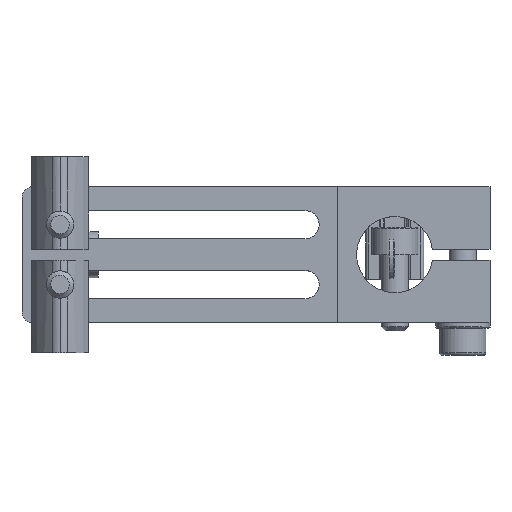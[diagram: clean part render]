
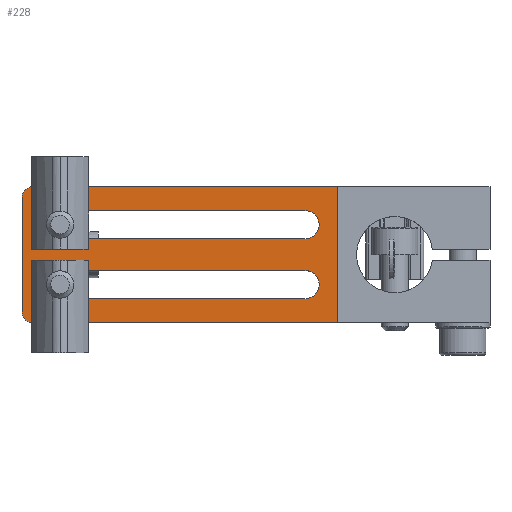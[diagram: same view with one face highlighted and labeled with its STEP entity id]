
A CAD part, top view. The second image highlights one B-rep face of the part: STEP entity #228.
In plain terms, the highlighted planar face has unit normal (0, 0, 1).
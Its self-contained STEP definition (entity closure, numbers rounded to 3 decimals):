
#228 = ADVANCED_FACE( '', ( #589, #590, #591 ), #592, .F. );
#589 = FACE_BOUND( '', #1097, .T. );
#590 = FACE_OUTER_BOUND( '', #1098, .T. );
#591 = FACE_BOUND( '', #1099, .T. );
#592 = PLANE( '', #1100 );
#1097 = EDGE_LOOP( '', ( #1758, #1759, #1760, #1761 ) );
#1098 = EDGE_LOOP( '', ( #1762, #1763, #1764, #1765, #1766, #1767 ) );
#1099 = EDGE_LOOP( '', ( #1768, #1769, #1770, #1771 ) );
#1100 = AXIS2_PLACEMENT_3D( '', #1772, #1773, #1774 );
#1758 = ORIENTED_EDGE( '', *, *, #2498, .T. );
#1759 = ORIENTED_EDGE( '', *, *, #2516, .F. );
#1760 = ORIENTED_EDGE( '', *, *, #2517, .T. );
#1761 = ORIENTED_EDGE( '', *, *, #2518, .F. );
#1762 = ORIENTED_EDGE( '', *, *, #2519, .F. );
#1763 = ORIENTED_EDGE( '', *, *, #2520, .T. );
#1764 = ORIENTED_EDGE( '', *, *, #2521, .T. );
#1765 = ORIENTED_EDGE( '', *, *, #2522, .T. );
#1766 = ORIENTED_EDGE( '', *, *, #2523, .T. );
#1767 = ORIENTED_EDGE( '', *, *, #2524, .T. );
#1768 = ORIENTED_EDGE( '', *, *, #2512, .T. );
#1769 = ORIENTED_EDGE( '', *, *, #2525, .F. );
#1770 = ORIENTED_EDGE( '', *, *, #2526, .T. );
#1771 = ORIENTED_EDGE( '', *, *, #2527, .F. );
#1772 = CARTESIAN_POINT( '', ( -65.149, -69., 6.4 ) );
#1773 = DIRECTION( '', ( 0., 0., -1. ) );
#1774 = DIRECTION( '', ( -1., 0., 0. ) );
#2498 = EDGE_CURVE( '', #2719, #2717, #2720, .T. );
#2512 = EDGE_CURVE( '', #2743, #2741, #2744, .T. );
#2516 = EDGE_CURVE( '', #2749, #2717, #2750, .T. );
#2517 = EDGE_CURVE( '', #2749, #2751, #2752, .T. );
#2518 = EDGE_CURVE( '', #2719, #2751, #2753, .T. );
#2519 = EDGE_CURVE( '', #2754, #2755, #2756, .T. );
#2520 = EDGE_CURVE( '', #2754, #2757, #2758, .F. );
#2521 = EDGE_CURVE( '', #2757, #2759, #2760, .T. );
#2522 = EDGE_CURVE( '', #2759, #2761, #2762, .T. );
#2523 = EDGE_CURVE( '', #2761, #2763, #2764, .T. );
#2524 = EDGE_CURVE( '', #2763, #2755, #2765, .F. );
#2525 = EDGE_CURVE( '', #2766, #2741, #2767, .T. );
#2526 = EDGE_CURVE( '', #2766, #2768, #2769, .T. );
#2527 = EDGE_CURVE( '', #2743, #2768, #2770, .T. );
#2717 = VERTEX_POINT( '', #3016 );
#2719 = VERTEX_POINT( '', #3019 );
#2720 = LINE( '', #3020, #3021 );
#2741 = VERTEX_POINT( '', #3051 );
#2743 = VERTEX_POINT( '', #3054 );
#2744 = LINE( '', #3055, #3056 );
#2749 = VERTEX_POINT( '', #3063 );
#2750 = CIRCLE( '', #3064, 2.6 );
#2751 = VERTEX_POINT( '', #3065 );
#2752 = LINE( '', #3066, #3067 );
#2753 = CIRCLE( '', #3068, 2.6 );
#2754 = VERTEX_POINT( '', #3069 );
#2755 = VERTEX_POINT( '', #3070 );
#2756 = LINE( '', #3071, #3072 );
#2757 = VERTEX_POINT( '', #3073 );
#2758 = CIRCLE( '', #3074, 2. );
#2759 = VERTEX_POINT( '', #3075 );
#2760 = LINE( '', #3076, #3077 );
#2761 = VERTEX_POINT( '', #3078 );
#2762 = LINE( '', #3079, #3080 );
#2763 = VERTEX_POINT( '', #3081 );
#2764 = LINE( '', #3082, #3083 );
#2765 = CIRCLE( '', #3084, 2. );
#2766 = VERTEX_POINT( '', #3085 );
#2767 = CIRCLE( '', #3086, 2.6 );
#2768 = VERTEX_POINT( '', #3087 );
#2769 = LINE( '', #3088, #3089 );
#2770 = CIRCLE( '', #3090, 2.6 );
#3016 = CARTESIAN_POINT( '', ( -61.5, -8.1, 6.4 ) );
#3019 = CARTESIAN_POINT( '', ( -16.5, -8.1, 6.4 ) );
#3020 = CARTESIAN_POINT( '', ( -16.5, -8.1, 6.4 ) );
#3021 = VECTOR( '', #3355, 1000. );
#3051 = CARTESIAN_POINT( '', ( -16.5, 8.1, 6.4 ) );
#3054 = CARTESIAN_POINT( '', ( -61.5, 8.1, 6.4 ) );
#3055 = CARTESIAN_POINT( '', ( -61.5, 8.1, 6.4 ) );
#3056 = VECTOR( '', #3366, 1000. );
#3063 = CARTESIAN_POINT( '', ( -61.5, -2.9, 6.4 ) );
#3064 = AXIS2_PLACEMENT_3D( '', #3369, #3370, #3371 );
#3065 = CARTESIAN_POINT( '', ( -16.5, -2.9, 6.4 ) );
#3066 = CARTESIAN_POINT( '', ( -61.5, -2.9, 6.4 ) );
#3067 = VECTOR( '', #3372, 1000. );
#3068 = AXIS2_PLACEMENT_3D( '', #3373, #3374, #3375 );
#3069 = CARTESIAN_POINT( '', ( -68.5, -10.5, 6.4 ) );
#3070 = CARTESIAN_POINT( '', ( -68.5, 10.5, 6.4 ) );
#3071 = CARTESIAN_POINT( '', ( -68.5, 12.5, 6.4 ) );
#3072 = VECTOR( '', #3376, 1000. );
#3073 = CARTESIAN_POINT( '', ( -66.5, -12.5, 6.4 ) );
#3074 = AXIS2_PLACEMENT_3D( '', #3377, #3378, #3379 );
#3075 = CARTESIAN_POINT( '', ( -10.5, -12.5, 6.4 ) );
#3076 = CARTESIAN_POINT( '', ( -68.5, -12.5, 6.4 ) );
#3077 = VECTOR( '', #3380, 1000. );
#3078 = CARTESIAN_POINT( '', ( -10.5, 12.5, 6.4 ) );
#3079 = CARTESIAN_POINT( '', ( -10.5, -69., 6.4 ) );
#3080 = VECTOR( '', #3381, 1000. );
#3081 = CARTESIAN_POINT( '', ( -66.5, 12.5, 6.4 ) );
#3082 = CARTESIAN_POINT( '', ( 17.5, 12.5, 6.4 ) );
#3083 = VECTOR( '', #3382, 1000. );
#3084 = AXIS2_PLACEMENT_3D( '', #3383, #3384, #3385 );
#3085 = CARTESIAN_POINT( '', ( -16.5, 2.9, 6.4 ) );
#3086 = AXIS2_PLACEMENT_3D( '', #3386, #3387, #3388 );
#3087 = CARTESIAN_POINT( '', ( -61.5, 2.9, 6.4 ) );
#3088 = CARTESIAN_POINT( '', ( -16.5, 2.9, 6.4 ) );
#3089 = VECTOR( '', #3389, 1000. );
#3090 = AXIS2_PLACEMENT_3D( '', #3390, #3391, #3392 );
#3355 = DIRECTION( '', ( -1., 0., 0. ) );
#3366 = DIRECTION( '', ( 1., 0., 0. ) );
#3369 = CARTESIAN_POINT( '', ( -61.5, -5.5, 6.4 ) );
#3370 = DIRECTION( '', ( 0., 0., 1. ) );
#3371 = DIRECTION( '', ( 1., 0., 0. ) );
#3372 = DIRECTION( '', ( 1., 0., 0. ) );
#3373 = CARTESIAN_POINT( '', ( -16.5, -5.5, 6.4 ) );
#3374 = DIRECTION( '', ( 0., 0., 1. ) );
#3375 = DIRECTION( '', ( 1., 0., 0. ) );
#3376 = DIRECTION( '', ( 0., 1., 0. ) );
#3377 = CARTESIAN_POINT( '', ( -66.5, -10.5, 6.4 ) );
#3378 = DIRECTION( '', ( 0., 0., -1. ) );
#3379 = DIRECTION( '', ( -1., 0., 0. ) );
#3380 = DIRECTION( '', ( 1., 0., 0. ) );
#3381 = DIRECTION( '', ( 0., 1., 0. ) );
#3382 = DIRECTION( '', ( -1., 0., 0. ) );
#3383 = CARTESIAN_POINT( '', ( -66.5, 10.5, 6.4 ) );
#3384 = DIRECTION( '', ( 0., 0., -1. ) );
#3385 = DIRECTION( '', ( -1., 0., 0. ) );
#3386 = CARTESIAN_POINT( '', ( -16.5, 5.5, 6.4 ) );
#3387 = DIRECTION( '', ( 0., 0., 1. ) );
#3388 = DIRECTION( '', ( 1., 0., 0. ) );
#3389 = DIRECTION( '', ( -1., 0., 0. ) );
#3390 = CARTESIAN_POINT( '', ( -61.5, 5.5, 6.4 ) );
#3391 = DIRECTION( '', ( 0., 0., 1. ) );
#3392 = DIRECTION( '', ( 1., 0., 0. ) );
